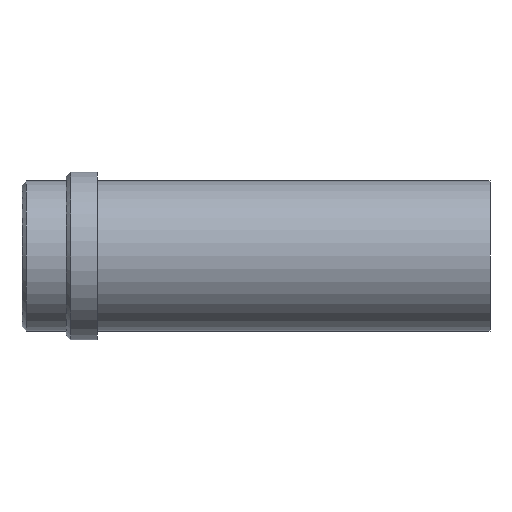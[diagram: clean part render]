
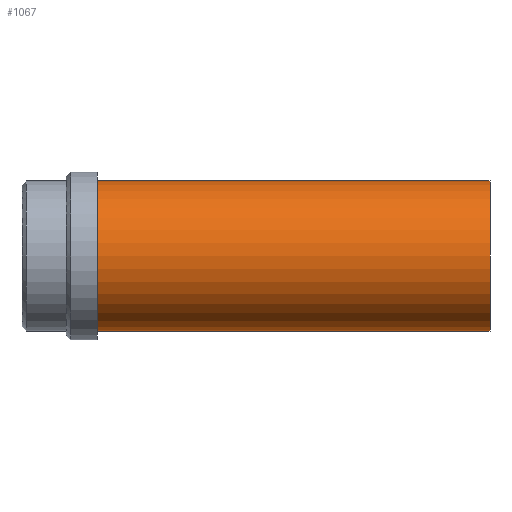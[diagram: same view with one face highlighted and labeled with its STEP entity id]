
A CAD part, front view. The second image highlights one B-rep face of the part: STEP entity #1067.
In plain terms, the highlighted cylindrical face has radius 17 mm (diameter 34 mm), a partial arc.
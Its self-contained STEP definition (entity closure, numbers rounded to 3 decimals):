
#953=CARTESIAN_POINT('Vertex',(0.,0.,-17.)) ;
#958=CARTESIAN_POINT('Axis2P3D Location',(0.,0.,0.)) ;
#962=CARTESIAN_POINT('Vertex',(0.,-17.,0.)) ;
#965=CARTESIAN_POINT('Axis2P3D Location',(0.,0.,0.)) ;
#969=CARTESIAN_POINT('Vertex',(0.,0.,17.)) ;
#995=CARTESIAN_POINT('Vertex',(89.,0.,17.)) ;
#998=CARTESIAN_POINT('Axis2P3D Location',(89.,0.,0.)) ;
#1002=CARTESIAN_POINT('Vertex',(89.,-17.,0.)) ;
#1005=CARTESIAN_POINT('Axis2P3D Location',(89.,0.,0.)) ;
#1009=CARTESIAN_POINT('Vertex',(89.,0.,-17.)) ;
#1035=CARTESIAN_POINT('Line Origine',(89.,0.,17.)) ;
#1040=CARTESIAN_POINT('Line Origine',(89.,0.,-17.)) ;
#1054=CARTESIAN_POINT('Axis2P3D Location',(89.,0.,0.)) ;
#959=DIRECTION('Axis2P3D Direction',(1.,0.,-0.)) ;
#966=DIRECTION('Axis2P3D Direction',(1.,0.,-0.)) ;
#999=DIRECTION('Axis2P3D Direction',(1.,0.,-0.)) ;
#1006=DIRECTION('Axis2P3D Direction',(1.,0.,-0.)) ;
#1036=DIRECTION('Vector Direction',(-1.,0.,0.)) ;
#1041=DIRECTION('Vector Direction',(-1.,0.,0.)) ;
#1055=DIRECTION('Axis2P3D Direction',(-1.,-0.,-0.)) ;
#1056=DIRECTION('Axis2P3D XDirection',(0.,0.,-1.)) ;
#960=AXIS2_PLACEMENT_3D('Circle Axis2P3D',#958,#959,$) ;
#967=AXIS2_PLACEMENT_3D('Circle Axis2P3D',#965,#966,$) ;
#1000=AXIS2_PLACEMENT_3D('Circle Axis2P3D',#998,#999,$) ;
#1007=AXIS2_PLACEMENT_3D('Circle Axis2P3D',#1005,#1006,$) ;
#1057=AXIS2_PLACEMENT_3D('Cylinder Axis2P3D',#1054,#1055,#1056) ;
#1060=ORIENTED_EDGE('',*,*,#1044,.T.) ;
#1061=ORIENTED_EDGE('',*,*,#1011,.F.) ;
#1062=ORIENTED_EDGE('',*,*,#1004,.F.) ;
#1063=ORIENTED_EDGE('',*,*,#1039,.T.) ;
#1064=ORIENTED_EDGE('',*,*,#971,.T.) ;
#1065=ORIENTED_EDGE('',*,*,#964,.T.) ;
#1037=VECTOR('Line Direction',#1036,1.) ;
#1042=VECTOR('Line Direction',#1041,1.) ;
#1067=ADVANCED_FACE('358-25X106',(#1066),#1058,.T.) ;
#961=CIRCLE('generated circle',#960,17.) ;
#968=CIRCLE('generated circle',#967,17.) ;
#1001=CIRCLE('generated circle',#1000,17.) ;
#1008=CIRCLE('generated circle',#1007,17.) ;
#1058=CYLINDRICAL_SURFACE('generated cylinder',#1057,17.) ;
#964=EDGE_CURVE('',#963,#954,#961,.T.) ;
#971=EDGE_CURVE('',#970,#963,#968,.T.) ;
#1004=EDGE_CURVE('',#996,#1003,#1001,.T.) ;
#1011=EDGE_CURVE('',#1003,#1010,#1008,.T.) ;
#1039=EDGE_CURVE('',#996,#970,#1038,.T.) ;
#1044=EDGE_CURVE('',#954,#1010,#1043,.F.) ;
#1059=EDGE_LOOP('',(#1060,#1061,#1062,#1063,#1064,#1065)) ;
#1066=FACE_OUTER_BOUND('',#1059,.T.) ;
#1038=LINE('Line',#1035,#1037) ;
#1043=LINE('Line',#1040,#1042) ;
#954=VERTEX_POINT('',#953) ;
#963=VERTEX_POINT('',#962) ;
#970=VERTEX_POINT('',#969) ;
#996=VERTEX_POINT('',#995) ;
#1003=VERTEX_POINT('',#1002) ;
#1010=VERTEX_POINT('',#1009) ;
